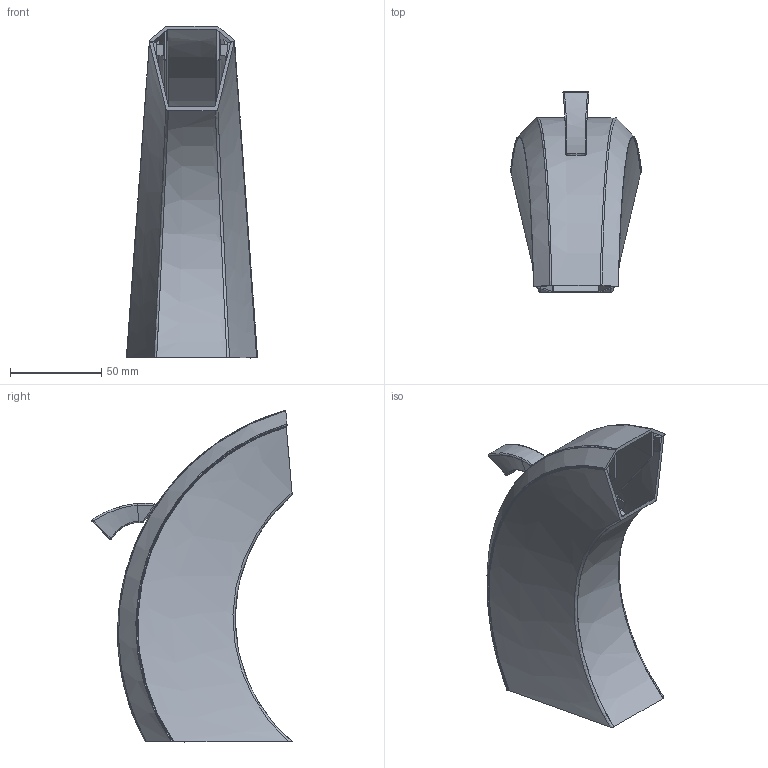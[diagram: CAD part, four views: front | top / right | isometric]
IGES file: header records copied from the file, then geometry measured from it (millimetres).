
Start section:  PTC IGES file: sku_s144.igs
Global section: file name: sku_s144.igs; native system: Pro/ENGINEER by Parametric Technology Corporation; preprocessor: 2006460; author: 9dutterb; organization: Unknown; date: 20071119.134528; units: inch
Bounding box: 72.02 x 110.02 x 182.19 mm (x, y, z)
Surface area: 104577.1 mm2 (no closed solid volume)
Topology: 0 solids, 0 shells, 639 faces, 3372 edges, 3368 vertices
Faces by surface type: bspline 415, revolution 210, extrusion 14
